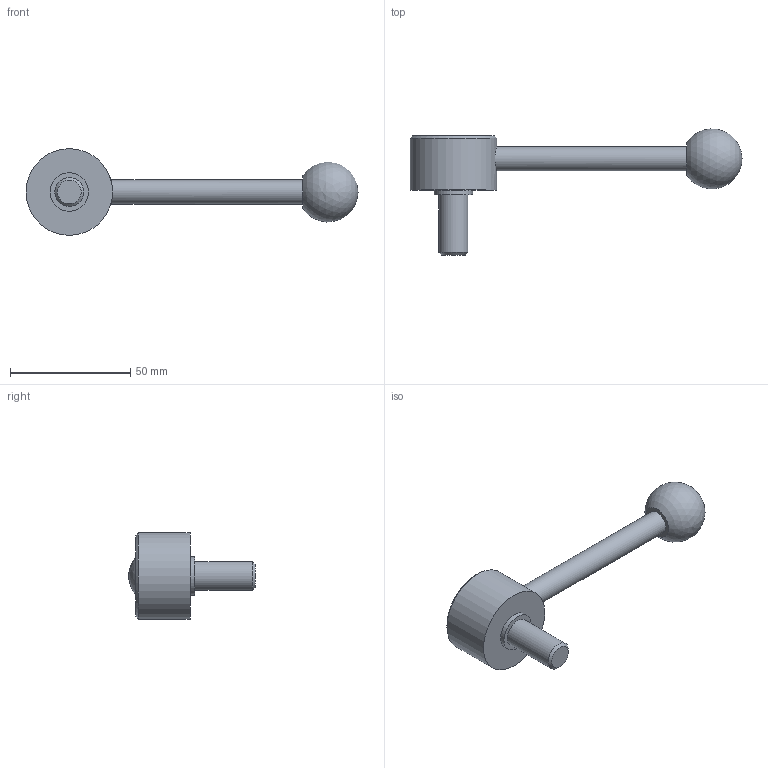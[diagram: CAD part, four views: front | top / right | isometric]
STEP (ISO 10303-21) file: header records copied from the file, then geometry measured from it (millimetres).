
FILE_DESCRIPTION( ( 'STEP AP203' ), '1' );
FILE_NAME( 'C:/Temp/Ganter_Step_05_03_2020/data/2_1/gn_125/gn_125_ms/gn_125_ms_d/Flat Adjustable Lever GN 125-36-M12-25-D.stp', '2020-03-05T11:00:49', ( 'License CC BY-ND 4.0' ), ( 'CADENAS' ), ' ', 'PARTsolutions', ' ' );
FILE_SCHEMA( ( 'CONFIG_CONTROL_DESIGN' ) );
Length unit declared in the file: millimetre
Products named in the file (1): _Flat Adjustable Lever GN 125-36-M12-25-D
Bounding box: 138 x 52.38 x 36 mm (x, y, z)
Volume: 40173.2 mm3; surface area: 9837 mm2
Topology: 1 solids, 1 shells, 14 faces, 23 edges, 15 vertices
Faces by surface type: plane 6, cylinder 5, cone 2, sphere 1
Full cylindrical faces by diameter (mm): 10 x1, 12 x1, 16 x1, 26 x1, 36 x1
Entity records: 392 total; most frequent: CARTESIAN_POINT 115, DIRECTION 54, AXIS2_PLACEMENT_3D 27, EDGE_LOOP 26, ORIENTED_EDGE 26, FACE_OUTER_BOUND 19, ADVANCED_FACE 14, VERTEX_POINT 14
